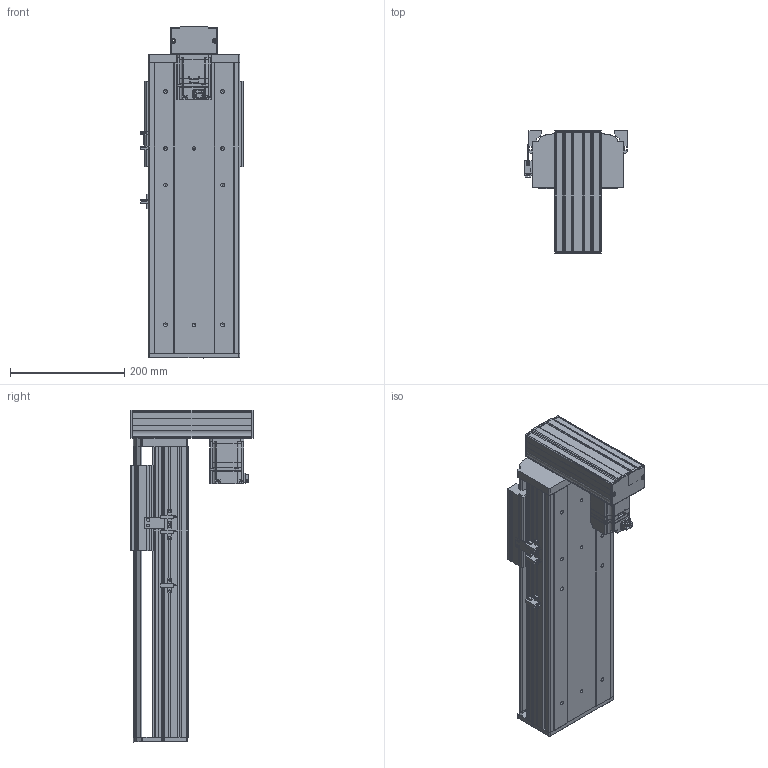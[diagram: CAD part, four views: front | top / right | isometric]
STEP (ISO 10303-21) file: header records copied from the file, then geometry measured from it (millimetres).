
FILE_DESCRIPTION(('Creo Elements/Direct Modeling STEP Export'),'2;1');
FILE_NAME('APOS160UON-ST300.stp','2022-02-18T11:43:49',(''),(''),'Creo Elements/Direct Modeling STEP processor for AP203 (Solid Model)','Creo Elements/Direct Modeling 19.0G 27-Nov-2017 (C) Parametric Technology GmbH','');
FILE_SCHEMA(('CONFIG_CONTROL_DESIGN'));
Length unit declared in the file: millimetre
Products named in the file (17): APCS090_º´·Ä_MOTOR_END_COVER; APOS160_º´·Ä_MOTOR_BRACKET-200_400W; sgmjv_02a_a21; APOS160_º´·Ä_MOTOR_UPPER_COVER(200W_400W); EE_SX672; APOS120_SENSOR_DOG; 160_end_cover_1218; p1; p2; APOS160_Carrier; p3; APOS160_BASE_FRAME-364L; APOS160_END_PLATE; APOS160UON-1520-ST300-20NN00-N-I3R; APOS160UON-ST300
Assembly tree (19 placements, depth 4):
  APOS160UON-ST300
    APOS160UON-1520-ST300-20NN00-N-I3R
      APOS160_END_PLATE
      APOS160_BASE_FRAME-364L
        p3
        p2
        p1
      APOS160_Carrier
        p2
        p1
      160_end_cover_1218
      EE_SX672  x3
      APOS120_SENSOR_DOG
      APOS160_º´·Ä_MOTOR_UPPER_COVER(200W_400W)
      APCS090_º´·Ä_MOTOR_END_COVER  x2
      sgmjv_02a_a21
      APOS160_º´·Ä_MOTOR_BRACKET-200_400W
Bounding box: 180.2 x 216 x 581.5 mm (x, y, z)
Volume: 4138130.7 mm3; surface area: 894454.1 mm2
Topology: 16 solids, 16 shells, 1742 faces, 4815 edges, 3151 vertices
Faces by surface type: plane 1087, cylinder 528, cone 98, bspline 26, sphere 2, torus 1
Entity records: 50645 total; most frequent: CARTESIAN_POINT 9853, ORIENTED_EDGE 8434, DIRECTION 7864, EDGE_CURVE 4217, VECTOR 2986, LINE 2986, VERTEX_POINT 2787, AXIS2_PLACEMENT_3D 2439
